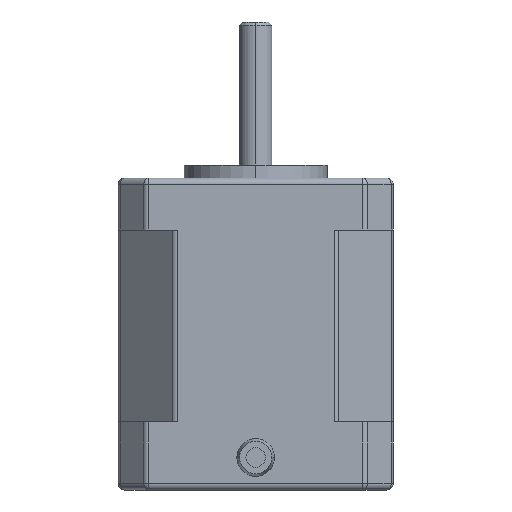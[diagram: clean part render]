
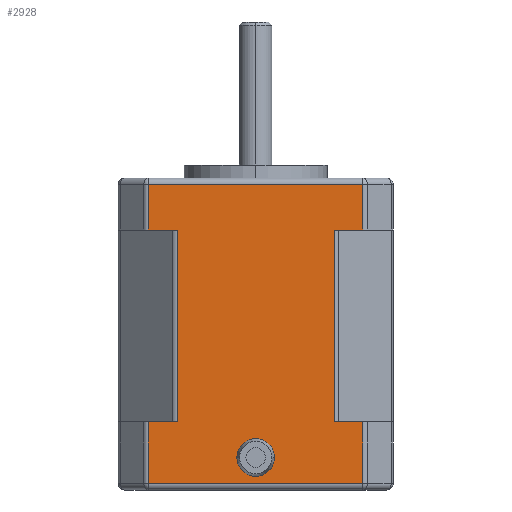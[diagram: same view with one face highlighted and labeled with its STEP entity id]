
A CAD part, left-side view. The second image highlights one B-rep face of the part: STEP entity #2928.
In plain terms, the highlighted planar face has unit normal (-1, 0, 0).
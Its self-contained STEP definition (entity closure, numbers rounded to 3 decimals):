
#56 = EDGE_CURVE ( 'NONE', #4232, #8278, #6251, .T. ) ;
#71 = CARTESIAN_POINT ( 'NONE',  ( -21.15, 16.496, 10.5 ) ) ;
#159 = ORIENTED_EDGE ( 'NONE', *, *, #4120, .F. ) ;
#238 = ORIENTED_EDGE ( 'NONE', *, *, #2112, .T. ) ;
#287 = CARTESIAN_POINT ( 'NONE',  ( -21.15, -12.5, 10.5 ) ) ;
#393 = DIRECTION ( 'NONE',  ( 0., 1., 0. ) ) ;
#474 = CARTESIAN_POINT ( 'NONE',  ( -21.15, 16.496, 40. ) ) ;
#540 = CARTESIAN_POINT ( 'NONE',  ( -21.15, -16.496, 10.5 ) ) ;
#618 = AXIS2_PLACEMENT_3D ( 'NONE', #7561, #6435, #393 ) ;
#656 = VERTEX_POINT ( 'NONE', #2511 ) ;
#763 = FACE_OUTER_BOUND ( 'NONE', #3080, .T. ) ;
#1057 = VECTOR ( 'NONE', #6317, 1000. ) ;
#1118 = DIRECTION ( 'NONE',  ( 0., -1., 0. ) ) ;
#1167 = LINE ( 'NONE', #2497, #4415 ) ;
#1176 = EDGE_CURVE ( 'NONE', #8278, #4232, #8449, .T. ) ;
#1187 = CARTESIAN_POINT ( 'NONE',  ( -21.15, 16.496, 47. ) ) ;
#1336 = ORIENTED_EDGE ( 'NONE', *, *, #4520, .T. ) ;
#1432 = VECTOR ( 'NONE', #7265, 1000. ) ;
#1496 = LINE ( 'NONE', #4406, #1057 ) ;
#1500 = VECTOR ( 'NONE', #8132, 1000. ) ;
#1625 = ORIENTED_EDGE ( 'NONE', *, *, #8657, .T. ) ;
#1650 = VECTOR ( 'NONE', #6659, 1000. ) ;
#1775 = VECTOR ( 'NONE', #5160, 1000. ) ;
#1825 = LINE ( 'NONE', #2877, #8995 ) ;
#1845 = AXIS2_PLACEMENT_3D ( 'NONE', #3409, #4381, #4430 ) ;
#1890 = DIRECTION ( 'NONE',  ( 0., -1., 0. ) ) ;
#2100 = VERTEX_POINT ( 'NONE', #4681 ) ;
#2112 = EDGE_CURVE ( 'NONE', #7213, #8547, #8378, .T. ) ;
#2183 = VERTEX_POINT ( 'NONE', #3516 ) ;
#2338 = CARTESIAN_POINT ( 'NONE',  ( -21.15, 12.086, 10.5 ) ) ;
#2497 = CARTESIAN_POINT ( 'NONE',  ( -21.15, 21.15, 40. ) ) ;
#2508 = EDGE_CURVE ( 'NONE', #656, #6114, #8479, .T. ) ;
#2511 = CARTESIAN_POINT ( 'NONE',  ( -21.15, -12.086, 10.5 ) ) ;
#2529 = ORIENTED_EDGE ( 'NONE', *, *, #8133, .T. ) ;
#2765 = CARTESIAN_POINT ( 'NONE',  ( -21.15, 12.086, 40. ) ) ;
#2805 = DIRECTION ( 'NONE',  ( 0., 0., -1. ) ) ;
#2877 = CARTESIAN_POINT ( 'NONE',  ( -21.15, -16.496, 10.5 ) ) ;
#2928 = ADVANCED_FACE ( 'NONE', ( #763, #7924 ), #9019, .F. ) ;
#3080 = EDGE_LOOP ( 'NONE', ( #7010, #6423, #3816, #6893, #8865, #1625, #238, #7216, #4469, #2529, #1336, #159 ) ) ;
#3202 = EDGE_CURVE ( 'NONE', #6792, #3306, #4962, .T. ) ;
#3224 = EDGE_CURVE ( 'NONE', #8346, #2100, #1496, .T. ) ;
#3225 = VECTOR ( 'NONE', #3957, 1000. ) ;
#3306 = VERTEX_POINT ( 'NONE', #3397 ) ;
#3397 = CARTESIAN_POINT ( 'NONE',  ( -21.15, 16.496, 40. ) ) ;
#3409 = CARTESIAN_POINT ( 'NONE',  ( -21.15, 0., 5. ) ) ;
#3516 = CARTESIAN_POINT ( 'NONE',  ( -21.15, -16.496, 1. ) ) ;
#3554 = LINE ( 'NONE', #1187, #1500 ) ;
#3816 = ORIENTED_EDGE ( 'NONE', *, *, #7946, .T. ) ;
#3957 = DIRECTION ( 'NONE',  ( 0., -1., 0. ) ) ;
#4120 = EDGE_CURVE ( 'NONE', #8346, #5928, #7131, .T. ) ;
#4170 = CARTESIAN_POINT ( 'NONE',  ( -21.15, 16.496, 47. ) ) ;
#4232 = VERTEX_POINT ( 'NONE', #7326 ) ;
#4262 = LINE ( 'NONE', #5360, #6123 ) ;
#4268 = DIRECTION ( 'NONE',  ( -1., 0., 0. ) ) ;
#4381 = DIRECTION ( 'NONE',  ( -1., 0., 0. ) ) ;
#4396 = EDGE_CURVE ( 'NONE', #2100, #2183, #4262, .T. ) ;
#4406 = CARTESIAN_POINT ( 'NONE',  ( -21.15, 16.496, 0. ) ) ;
#4415 = VECTOR ( 'NONE', #1118, 1000. ) ;
#4430 = DIRECTION ( 'NONE',  ( 0., 1., 0. ) ) ;
#4469 = ORIENTED_EDGE ( 'NONE', *, *, #3202, .T. ) ;
#4519 = DIRECTION ( 'NONE',  ( 0., -1., 0. ) ) ;
#4520 = EDGE_CURVE ( 'NONE', #7849, #5928, #5241, .T. ) ;
#4681 = CARTESIAN_POINT ( 'NONE',  ( -21.15, 16.496, 1. ) ) ;
#4962 = LINE ( 'NONE', #474, #5182 ) ;
#5160 = DIRECTION ( 'NONE',  ( 0., 0., -1. ) ) ;
#5182 = VECTOR ( 'NONE', #2805, 1000. ) ;
#5241 = LINE ( 'NONE', #5957, #1775 ) ;
#5259 = DIRECTION ( 'NONE',  ( 0., -1., 0. ) ) ;
#5360 = CARTESIAN_POINT ( 'NONE',  ( -21.15, 21.15, 1. ) ) ;
#5364 = CARTESIAN_POINT ( 'NONE',  ( -21.15, 0., 5. ) ) ;
#5495 = VECTOR ( 'NONE', #1890, 1000. ) ;
#5578 = EDGE_CURVE ( 'NONE', #656, #7938, #7191, .T. ) ;
#5643 = CARTESIAN_POINT ( 'NONE',  ( -21.15, -12.086, 40. ) ) ;
#5928 = VERTEX_POINT ( 'NONE', #2338 ) ;
#5957 = CARTESIAN_POINT ( 'NONE',  ( -21.15, 12.086, 48. ) ) ;
#5969 = CARTESIAN_POINT ( 'NONE',  ( -21.15, -12.086, 48. ) ) ;
#6024 = CARTESIAN_POINT ( 'NONE',  ( -21.15, -12.5, 40. ) ) ;
#6114 = VERTEX_POINT ( 'NONE', #540 ) ;
#6123 = VECTOR ( 'NONE', #4519, 1000. ) ;
#6251 = CIRCLE ( 'NONE', #1845, 2.902 ) ;
#6317 = DIRECTION ( 'NONE',  ( 0., 0., -1. ) ) ;
#6346 = DIRECTION ( 'NONE',  ( 0., 0., 1. ) ) ;
#6423 = ORIENTED_EDGE ( 'NONE', *, *, #4396, .T. ) ;
#6435 = DIRECTION ( 'NONE',  ( 1., 0., 0. ) ) ;
#6659 = DIRECTION ( 'NONE',  ( 0., 0., 1. ) ) ;
#6792 = VERTEX_POINT ( 'NONE', #4170 ) ;
#6834 = ORIENTED_EDGE ( 'NONE', *, *, #1176, .F. ) ;
#6893 = ORIENTED_EDGE ( 'NONE', *, *, #2508, .F. ) ;
#6902 = CARTESIAN_POINT ( 'NONE',  ( -21.15, 2.902, 5. ) ) ;
#6930 = EDGE_LOOP ( 'NONE', ( #7888, #6834 ) ) ;
#7010 = ORIENTED_EDGE ( 'NONE', *, *, #3224, .T. ) ;
#7131 = LINE ( 'NONE', #8519, #5495 ) ;
#7191 = LINE ( 'NONE', #5969, #1650 ) ;
#7213 = VERTEX_POINT ( 'NONE', #8845 ) ;
#7216 = ORIENTED_EDGE ( 'NONE', *, *, #7719, .T. ) ;
#7265 = DIRECTION ( 'NONE',  ( 0., 0., 1. ) ) ;
#7296 = CARTESIAN_POINT ( 'NONE',  ( -21.15, -16.496, 47. ) ) ;
#7326 = CARTESIAN_POINT ( 'NONE',  ( -21.15, -2.902, 5. ) ) ;
#7561 = CARTESIAN_POINT ( 'NONE',  ( -21.15, 21.15, 48. ) ) ;
#7719 = EDGE_CURVE ( 'NONE', #8547, #6792, #3554, .T. ) ;
#7756 = DIRECTION ( 'NONE',  ( 0., 1., 0. ) ) ;
#7849 = VERTEX_POINT ( 'NONE', #2765 ) ;
#7888 = ORIENTED_EDGE ( 'NONE', *, *, #56, .F. ) ;
#7924 = FACE_BOUND ( 'NONE', #6930, .T. ) ;
#7938 = VERTEX_POINT ( 'NONE', #5643 ) ;
#7946 = EDGE_CURVE ( 'NONE', #2183, #6114, #1825, .T. ) ;
#8132 = DIRECTION ( 'NONE',  ( 0., 1., 0. ) ) ;
#8133 = EDGE_CURVE ( 'NONE', #3306, #7849, #1167, .T. ) ;
#8254 = VECTOR ( 'NONE', #5259, 1000. ) ;
#8278 = VERTEX_POINT ( 'NONE', #6902 ) ;
#8346 = VERTEX_POINT ( 'NONE', #71 ) ;
#8378 = LINE ( 'NONE', #8698, #1432 ) ;
#8449 = CIRCLE ( 'NONE', #8477, 2.902 ) ;
#8477 = AXIS2_PLACEMENT_3D ( 'NONE', #5364, #4268, #7756 ) ;
#8479 = LINE ( 'NONE', #287, #8254 ) ;
#8519 = CARTESIAN_POINT ( 'NONE',  ( -21.15, 21.15, 10.5 ) ) ;
#8547 = VERTEX_POINT ( 'NONE', #7296 ) ;
#8657 = EDGE_CURVE ( 'NONE', #7938, #7213, #8755, .T. ) ;
#8698 = CARTESIAN_POINT ( 'NONE',  ( -21.15, -16.496, 48. ) ) ;
#8755 = LINE ( 'NONE', #6024, #3225 ) ;
#8845 = CARTESIAN_POINT ( 'NONE',  ( -21.15, -16.496, 40. ) ) ;
#8865 = ORIENTED_EDGE ( 'NONE', *, *, #5578, .T. ) ;
#8995 = VECTOR ( 'NONE', #6346, 1000. ) ;
#9019 = PLANE ( 'NONE',  #618 ) ;
